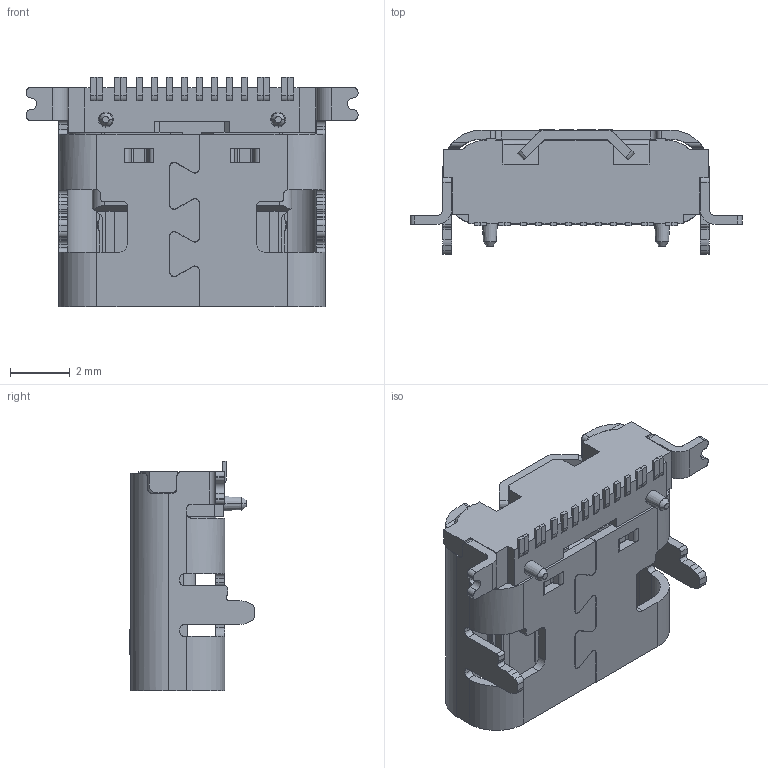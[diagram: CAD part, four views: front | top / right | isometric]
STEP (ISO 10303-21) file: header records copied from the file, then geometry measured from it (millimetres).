
FILE_DESCRIPTION (( 'STEP AP214' ), '1' );
FILE_NAME ('U5095-16PN7.35L.STEP', '2026-06-02T05:39:32', ( '' ), ( '' ), 'SwSTEP 2.0', 'SolidWorks 2024', '' );
FILE_SCHEMA (( 'AUTOMOTIVE_DESIGN' ));
Length unit declared in the file: millimetre
Products named in the file (1): U5095-16PN7.35L
Bounding box: 11.14 x 4.19 x 7.7 mm (x, y, z)
Volume: 113.9 mm3; surface area: 478.2 mm2
Topology: 1 solids, 1 shells, 778 faces, 2284 edges, 1495 vertices
Faces by surface type: plane 539, cylinder 187, bspline 36, cone 16
Entity records: 27779 total; most frequent: CARTESIAN_POINT 7056, ORIENTED_EDGE 4568, DIRECTION 4029, EDGE_CURVE 2284, LINE 1735, VECTOR 1735, VERTEX_POINT 1495, AXIS2_PLACEMENT_3D 1147
